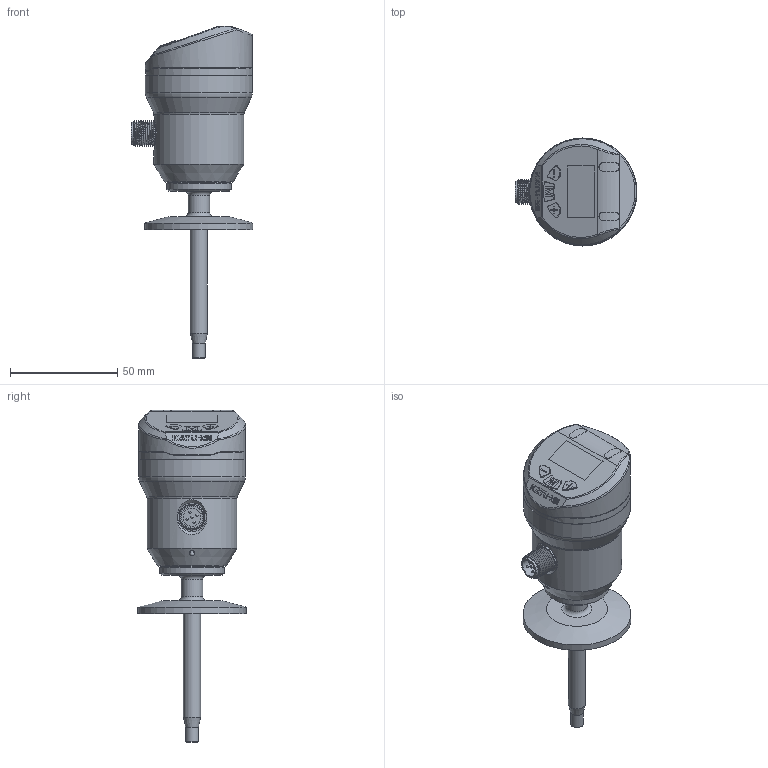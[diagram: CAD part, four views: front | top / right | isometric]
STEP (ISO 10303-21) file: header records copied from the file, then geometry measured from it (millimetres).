
FILE_DESCRIPTION( (''), '2;1');
FILE_NAME( 'QEKE_H50_L60_tri-clamp.step', '2026-06-25T11:45:45+08:00', (''), (''), '', '', '');
FILE_SCHEMA (('AP203_CONFIGURATION_CONTROLLED_3D_DESIGN_OF_MECHANICAL_PARTS_AND_ASSEMBLIES_MIM_LF { 1 0 10303 403 2 1 2}'));
Length unit declared in the file: millimetre
Products named in the file (1): QEKE H50_L60_tri-clamp
Bounding box: 56.95 x 50.5 x 155.09 mm (x, y, z)
Volume: 99498.3 mm3; surface area: 37588.8 mm2
Topology: 9 solids, 9 shells, 556 faces, 1392 edges, 899 vertices
Faces by surface type: plane 303, cylinder 130, bspline 43, cone 36, torus 33, sphere 11
Full cylindrical faces by diameter (mm): 1 x10, 2.5 x1, 2.7 x5, 3.1 x1, 3.5 x2, 6 x1, 6.8 x1, 8 x1, 8.4 x1, 9.7 x1, 9.8 x1, 10 x1, 10.1 x1, 11 x1, 11.6 x1, 12 x1, 23 x3, 26.1 x5, 30 x1, 42 x1, 48 x1, 50 x3, 50.5 x1
Entity records: 20061 total; most frequent: CARTESIAN_POINT 6598, DIRECTION 2524, ORIENTED_EDGE 2520, EDGE_CURVE 1260, AXIS2_PLACEMENT_3D 898, VERTEX_POINT 854, LINE 728, VECTOR 728
